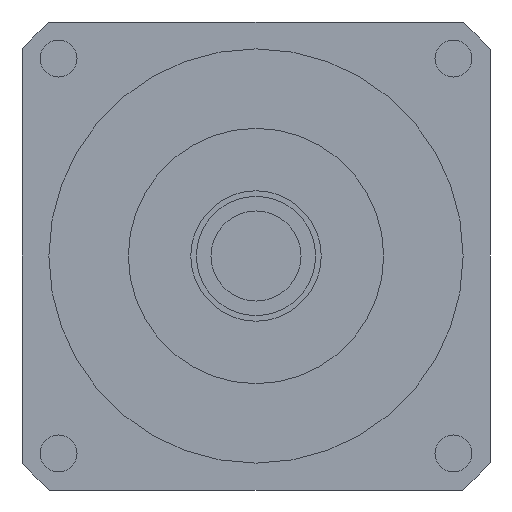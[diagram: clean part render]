
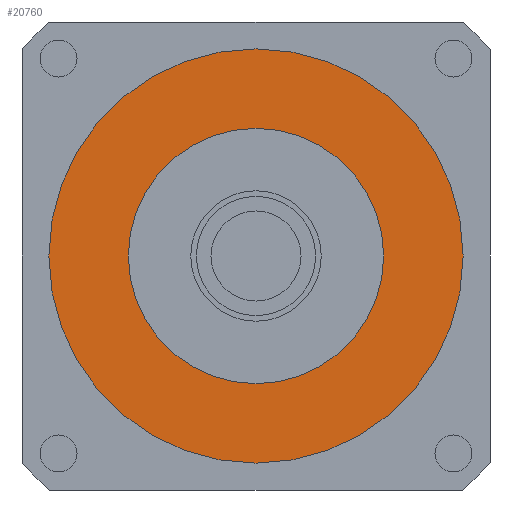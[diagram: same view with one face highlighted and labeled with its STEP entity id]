
A CAD part, left-side view. The second image highlights one B-rep face of the part: STEP entity #20760.
In plain terms, the highlighted planar face has unit normal (-1, 0, 0) as drawn and (0, 0, -1) by its records, which use the part's own axes.
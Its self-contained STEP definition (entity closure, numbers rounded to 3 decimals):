
#20220=CARTESIAN_POINT('',(36.51,0.,-39.));
#20230=VERTEX_POINT('',#20220);
#20320=CARTESIAN_POINT('',(-36.51,0.,-39.));
#20330=VERTEX_POINT('',#20320);
#20360=CARTESIAN_POINT('',(0.,0.,
-39.));
#20370=DIRECTION('',(0.,0.,1.));
#20380=DIRECTION('',(0.,1.,0.));
#20390=AXIS2_PLACEMENT_3D('',#20360,#20370,#20380);
#20400=CIRCLE('',#20390,36.51);
#20410=CARTESIAN_POINT('',(0.,36.51,-39.));
#20420=VERTEX_POINT('',#20410);
#20430=EDGE_CURVE('',#20420,#20330,#20400,.T.);
#20450=EDGE_CURVE('',#20230,#20420,#20400,.T.);
#20500=CARTESIAN_POINT('',(0.,0.,
-39.));
#20510=DIRECTION('',(0.,0.,1.));
#20520=DIRECTION('',(-1.,0.,0.));
#20530=AXIS2_PLACEMENT_3D('',#20500,#20510,#20520);
#20540=PLANE('',#20530);
#20550=CARTESIAN_POINT('',(0.,0.,
-39.));
#20560=DIRECTION('',(0.,0.,1.));
#20570=DIRECTION('',(1.,0.,0.));
#20580=AXIS2_PLACEMENT_3D('',#20550,#20560,#20570);
#20590=CIRCLE('',#20580,22.5);
#20600=CARTESIAN_POINT('',(22.5,0.,-39.));
#20610=VERTEX_POINT('',#20600);
#20620=CARTESIAN_POINT('',(-22.5,0.,-39.));
#20630=VERTEX_POINT('',#20620);
#20640=EDGE_CURVE('',#20610,#20630,#20590,.T.);
#20650=ORIENTED_EDGE('',*,*,#20640,.T.);
#20660=EDGE_CURVE('',#20630,#20610,#20590,.T.);
#20670=ORIENTED_EDGE('',*,*,#20660,.T.);
#20680=EDGE_LOOP('',(#20670,#20650));
#20690=FACE_BOUND('',#20680,.T.);
#20700=ORIENTED_EDGE('',*,*,#20430,.F.);
#20710=EDGE_CURVE('',#20330,#20230,#20400,.T.);
#20720=ORIENTED_EDGE('',*,*,#20710,.F.);
#20730=ORIENTED_EDGE('',*,*,#20450,.F.);
#20740=EDGE_LOOP('',(#20730,#20720,#20700));
#20750=FACE_OUTER_BOUND('',#20740,.T.);
#20760=ADVANCED_FACE('',(#20690,#20750),#20540,.F.);
